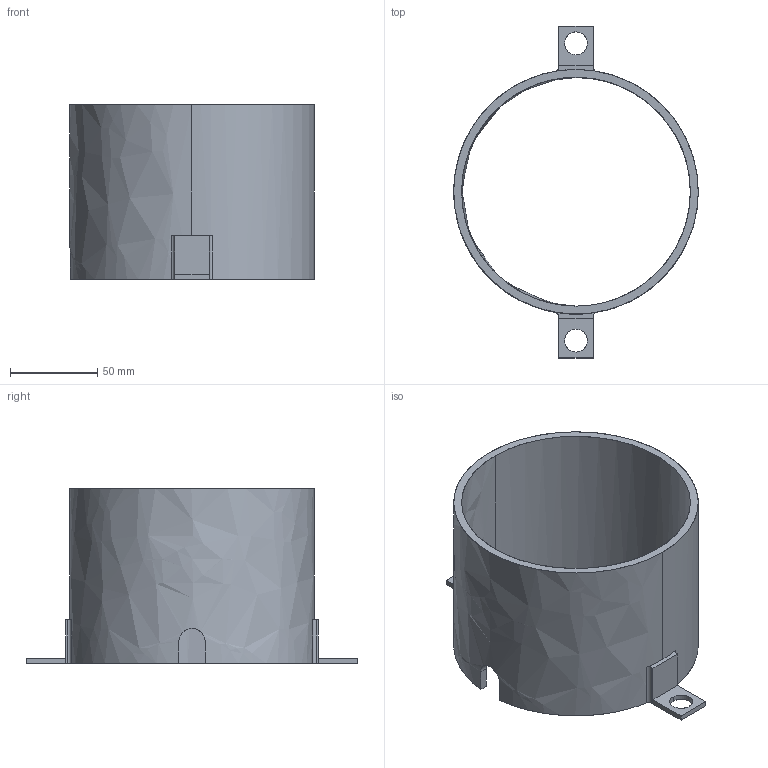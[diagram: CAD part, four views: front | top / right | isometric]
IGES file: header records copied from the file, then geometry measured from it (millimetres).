
Global section: file name: E:\UnigraphicsGraphicData\MISUMI_PRESS-PARTS\IGES\3d_ph90-100-r_07059_r00.igs; native system: NX V5.0; preprocessor: UGS NX IGES V5.0; author: MISUMI; date: 20110105.162245; units: millimetre
Bounding box: 139.8 x 189.8 x 100 mm (x, y, z)
Surface area: 93266.3 mm2 (no closed solid volume)
Topology: 0 solids, 0 shells, 41 faces, 290 edges, 290 vertices
Faces by surface type: bspline 41
